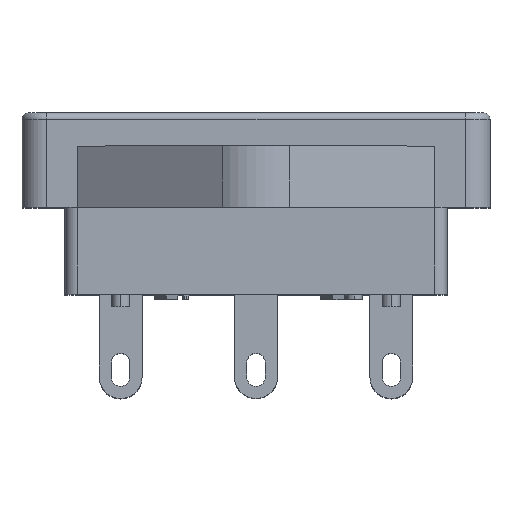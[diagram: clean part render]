
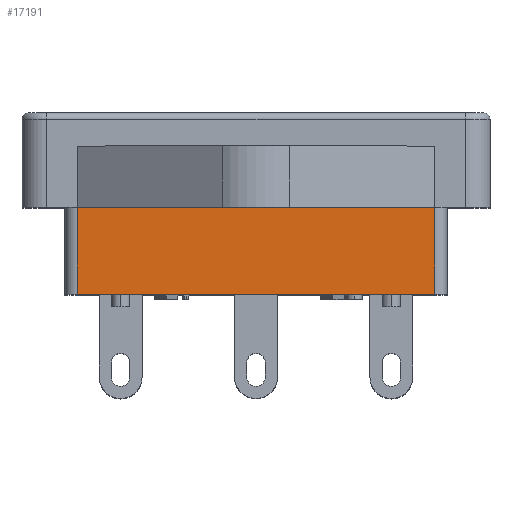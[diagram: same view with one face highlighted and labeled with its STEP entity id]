
A CAD part, top view. The second image highlights one B-rep face of the part: STEP entity #17191.
In plain terms, the highlighted planar face has unit normal (0, 0, 1).
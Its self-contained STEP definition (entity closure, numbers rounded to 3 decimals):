
#15 = CARTESIAN_POINT ( 'NONE',  ( 14.6, -3.6, 16.5 ) ) ;
#336 = DIRECTION ( 'NONE',  ( -1., 0., 0. ) ) ;
#1032 = DIRECTION ( 'NONE',  ( 0., -1., 0. ) ) ;
#2087 = EDGE_CURVE ( 'NONE', #34612, #16500, #21640, .T. ) ;
#5439 = VERTEX_POINT ( 'NONE', #18685 ) ;
#7001 = DIRECTION ( 'NONE',  ( 1., 0., 0. ) ) ;
#8261 = EDGE_CURVE ( 'NONE', #34612, #23659, #32819, .T. ) ;
#8634 = ORIENTED_EDGE ( 'NONE', *, *, #23705, .T. ) ;
#9851 = ORIENTED_EDGE ( 'NONE', *, *, #8261, .F. ) ;
#10216 = ORIENTED_EDGE ( 'NONE', *, *, #2087, .T. ) ;
#11022 = VECTOR ( 'NONE', #7001, 1000. ) ;
#11678 = LINE ( 'NONE', #15, #18712 ) ;
#11772 = DIRECTION ( 'NONE',  ( 1., 0., 0. ) ) ;
#12311 = FACE_OUTER_BOUND ( 'NONE', #20272, .T. ) ;
#14552 = CARTESIAN_POINT ( 'NONE',  ( -14.6, -7.7, 16.5 ) ) ;
#14616 = VECTOR ( 'NONE', #1032, 1000. ) ;
#15242 = CARTESIAN_POINT ( 'NONE',  ( 3.4, -48.201, 16.5 ) ) ;
#16500 = VERTEX_POINT ( 'NONE', #30259 ) ;
#17191 = ADVANCED_FACE ( 'NONE', ( #12311 ), #33162, .F. ) ;
#18228 = DIRECTION ( 'NONE',  ( 0., 0., -1. ) ) ;
#18558 = AXIS2_PLACEMENT_3D ( 'NONE', #15242, #18228, #336 ) ;
#18685 = CARTESIAN_POINT ( 'NONE',  ( 14.6, -14.8, 16.5 ) ) ;
#18712 = VECTOR ( 'NONE', #29997, 1000. ) ;
#19346 = EDGE_CURVE ( 'NONE', #5439, #23659, #11678, .T. ) ;
#20272 = EDGE_LOOP ( 'NONE', ( #30023, #9851, #10216, #8634 ) ) ;
#21365 = CARTESIAN_POINT ( 'NONE',  ( -15.6, -14.8, 16.5 ) ) ;
#21640 = LINE ( 'NONE', #21951, #14616 ) ;
#21951 = CARTESIAN_POINT ( 'NONE',  ( -14.6, -14.7, 16.5 ) ) ;
#23659 = VERTEX_POINT ( 'NONE', #33154 ) ;
#23705 = EDGE_CURVE ( 'NONE', #16500, #5439, #36817, .T. ) ;
#24910 = VECTOR ( 'NONE', #11772, 1000. ) ;
#29997 = DIRECTION ( 'NONE',  ( 0., 1., 0. ) ) ;
#30023 = ORIENTED_EDGE ( 'NONE', *, *, #19346, .T. ) ;
#30259 = CARTESIAN_POINT ( 'NONE',  ( -14.6, -14.8, 16.5 ) ) ;
#32717 = CARTESIAN_POINT ( 'NONE',  ( -7.6, -7.7, 16.5 ) ) ;
#32819 = LINE ( 'NONE', #32717, #24910 ) ;
#33154 = CARTESIAN_POINT ( 'NONE',  ( 14.6, -7.7, 16.5 ) ) ;
#33162 = PLANE ( 'NONE',  #18558 ) ;
#34612 = VERTEX_POINT ( 'NONE', #14552 ) ;
#36817 = LINE ( 'NONE', #21365, #11022 ) ;
